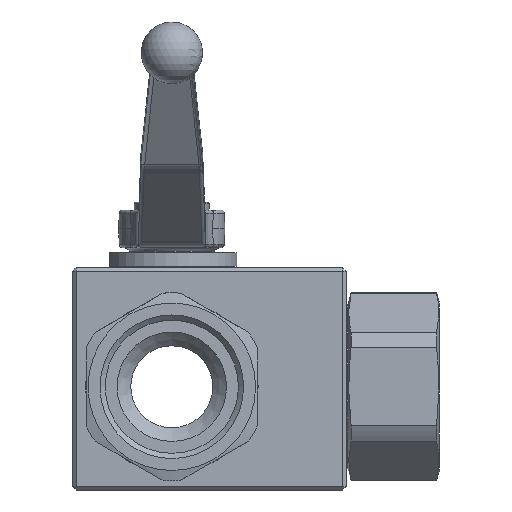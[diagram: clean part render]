
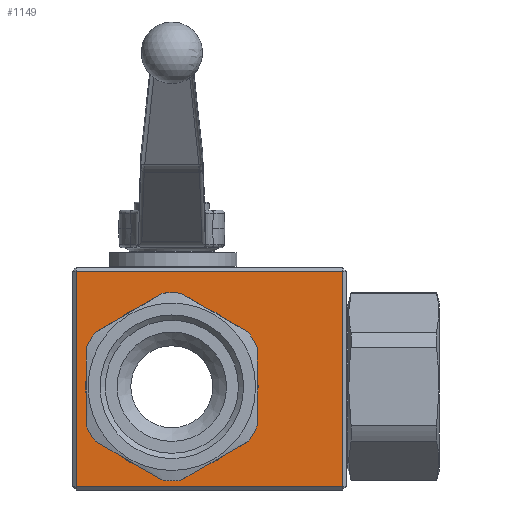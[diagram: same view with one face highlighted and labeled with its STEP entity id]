
A CAD part, front view. The second image highlights one B-rep face of the part: STEP entity #1149.
In plain terms, the highlighted planar face has unit normal (0, -1, 0).
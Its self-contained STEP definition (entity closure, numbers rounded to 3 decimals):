
#1149 = ADVANCED_FACE( '', ( #2282, #2283 ), #2284, .F. );
#2282 = FACE_OUTER_BOUND( '', #4024, .T. );
#2283 = FACE_BOUND( '', #4025, .T. );
#2284 = PLANE( '', #4026 );
#4024 = EDGE_LOOP( '', ( #6807, #6808, #6809, #6810 ) );
#4025 = EDGE_LOOP( '', ( #6811 ) );
#4026 = AXIS2_PLACEMENT_3D( '', #6812, #6813, #6814 );
#6807 = ORIENTED_EDGE( '', *, *, #7593, .T. );
#6808 = ORIENTED_EDGE( '', *, *, #7982, .T. );
#6809 = ORIENTED_EDGE( '', *, *, #8044, .T. );
#6810 = ORIENTED_EDGE( '', *, *, #7613, .T. );
#6811 = ORIENTED_EDGE( '', *, *, #7632, .F. );
#6812 = CARTESIAN_POINT( '', ( -29., -32.5, 34.8 ) );
#6813 = DIRECTION( '', ( 0., 1., 0. ) );
#6814 = DIRECTION( '', ( 0., 0., 1. ) );
#7593 = EDGE_CURVE( '', #8948, #8950, #8952, .T. );
#7613 = EDGE_CURVE( '', #8983, #8948, #8984, .T. );
#7632 = EDGE_CURVE( '', #9013, #9013, #9014, .T. );
#7982 = EDGE_CURVE( '', #8950, #8611, #9528, .T. );
#8044 = EDGE_CURVE( '', #8611, #8983, #9610, .T. );
#8611 = VERTEX_POINT( '', #10726 );
#8948 = VERTEX_POINT( '', #11390 );
#8950 = VERTEX_POINT( '', #11393 );
#8952 = LINE( '', #11396, #11397 );
#8983 = VERTEX_POINT( '', #11460 );
#8984 = LINE( '', #11461, #11462 );
#9013 = VERTEX_POINT( '', #11500 );
#9014 = CIRCLE( '', #11501, 25.25 );
#9528 = LINE( '', #12900, #12901 );
#9610 = LINE( '', #13353, #13354 );
#10726 = CARTESIAN_POINT( '', ( -28., -32.5, -29.2 ) );
#11390 = CARTESIAN_POINT( '', ( 50., -32.5, 33.8 ) );
#11393 = CARTESIAN_POINT( '', ( -28., -32.5, 33.8 ) );
#11396 = CARTESIAN_POINT( '', ( -29., -32.5, 33.8 ) );
#11397 = VECTOR( '', #14606, 1000. );
#11460 = CARTESIAN_POINT( '', ( 50., -32.5, -29.2 ) );
#11461 = CARTESIAN_POINT( '', ( 50., -32.5, 34.8 ) );
#11462 = VECTOR( '', #14624, 1000. );
#11500 = CARTESIAN_POINT( '', ( 25.25, -32.5, 0. ) );
#11501 = AXIS2_PLACEMENT_3D( '', #14649, #14650, #14651 );
#12900 = CARTESIAN_POINT( '', ( -28., -32.5, 34.8 ) );
#12901 = VECTOR( '', #15043, 1000. );
#13353 = CARTESIAN_POINT( '', ( 51., -32.5, -29.2 ) );
#13354 = VECTOR( '', #15095, 1000. );
#14606 = DIRECTION( '', ( -1., 0., 0. ) );
#14624 = DIRECTION( '', ( 0., 0., 1. ) );
#14649 = CARTESIAN_POINT( '', ( 0., -32.5, 0. ) );
#14650 = DIRECTION( '', ( 0., -1., 0. ) );
#14651 = DIRECTION( '', ( 1., 0., 0. ) );
#15043 = DIRECTION( '', ( 0., 0., -1. ) );
#15095 = DIRECTION( '', ( 1., 0., 0. ) );
